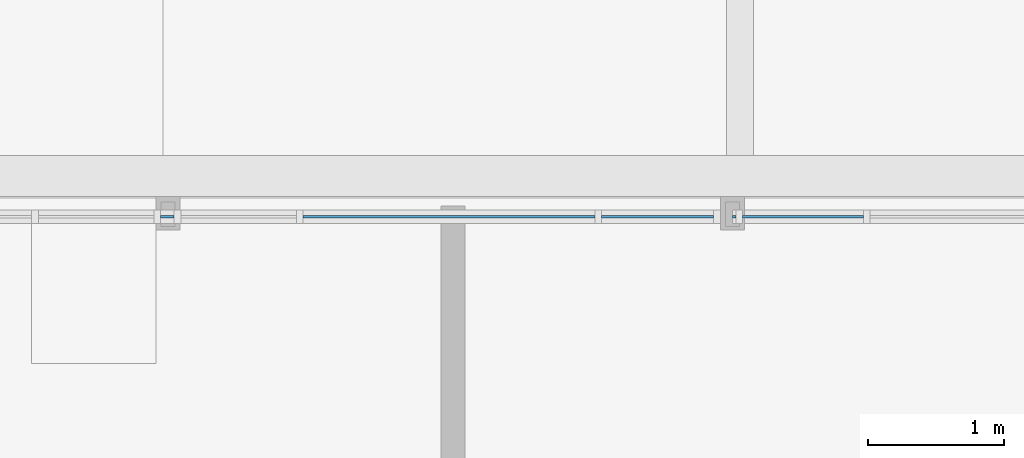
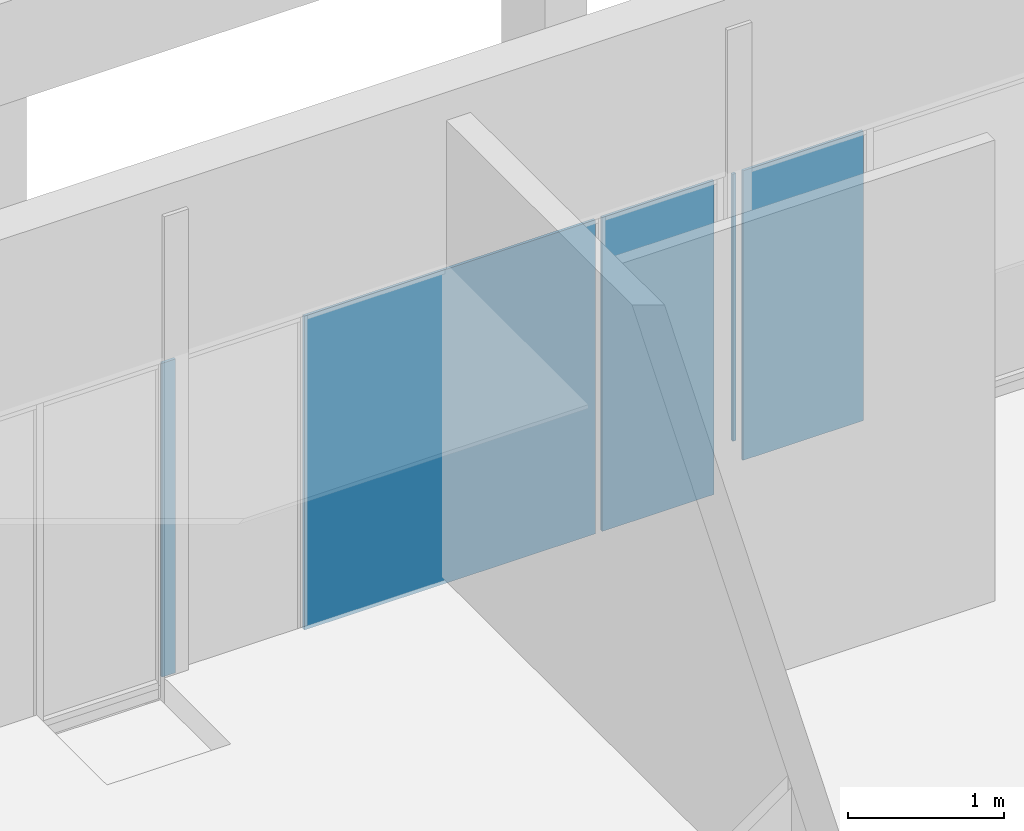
# One storey, part 42 of 117: 5 plates, 2 elements without a shape of their own.
"""IFC4 building model written with IfcOpenShell, lengths in metres."""

from ifc_helpers import new_model, entity, si_unit, converted_unit, derived_unit, direction, frame, origin, place, context, subcontext, project, spatial, indexed_curve, outline, extrude, source, transform, mapped, material, type_object, type_shapes, element, aggregate, save


model = new_model("IFC4")

# Units and contexts
model_context = context("Model", 3, precision=1e-05, world=origin(), true_north=direction((6.123031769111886e-17, 1.0)))
body_context = subcontext(model_context, "Body", "Model", "MODEL_VIEW")
ifc_project = project(units=[si_unit("LENGTHUNIT", "METRE"), si_unit("AREAUNIT", "SQUARE_METRE"), si_unit("VOLUMEUNIT", "CUBIC_METRE"), converted_unit("PLANEANGLEUNIT", "DEGREE", entity("IfcRatioMeasure", 0.017453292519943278), si_unit("PLANEANGLEUNIT", "RADIAN"), dimensions=[0, 0, 0, 0, 0, 0, 0]), si_unit("MASSUNIT", "GRAM", prefix="KILO"), derived_unit("MASSDENSITYUNIT", [(si_unit("MASSUNIT", "GRAM", prefix="KILO"), 1), (si_unit("LENGTHUNIT", "METRE"), -3)]), derived_unit("MOMENTOFINERTIAUNIT", [(si_unit("LENGTHUNIT", "METRE"), 4)]), si_unit("TIMEUNIT", "SECOND"), si_unit("FREQUENCYUNIT", "HERTZ"), si_unit("THERMODYNAMICTEMPERATUREUNIT", "DEGREE_CELSIUS"), derived_unit("THERMALTRANSMITTANCEUNIT", [(si_unit("MASSUNIT", "GRAM", prefix="KILO"), 1), (si_unit("THERMODYNAMICTEMPERATUREUNIT", "KELVIN"), -1), (si_unit("TIMEUNIT", "SECOND"), -3)]), derived_unit("VOLUMETRICFLOWRATEUNIT", [(si_unit("LENGTHUNIT", "METRE"), 3), (si_unit("TIMEUNIT", "SECOND"), -1)]), derived_unit("MASSFLOWRATEUNIT", [(si_unit("MASSUNIT", "GRAM", prefix="KILO"), 1), (si_unit("TIMEUNIT", "SECOND"), -1)]), derived_unit("ROTATIONALFREQUENCYUNIT", [(si_unit("TIMEUNIT", "SECOND"), -1)]), si_unit("ELECTRICCURRENTUNIT", "AMPERE"), si_unit("ELECTRICVOLTAGEUNIT", "VOLT"), si_unit("POWERUNIT", "WATT"), si_unit("FORCEUNIT", "NEWTON", prefix="KILO"), si_unit("ILLUMINANCEUNIT", "LUX"), si_unit("LUMINOUSFLUXUNIT", "LUMEN"), si_unit("LUMINOUSINTENSITYUNIT", "CANDELA"), derived_unit("USERDEFINED", [(si_unit("MASSUNIT", "GRAM", prefix="KILO"), -1), (si_unit("LENGTHUNIT", "METRE"), -2), (si_unit("TIMEUNIT", "SECOND"), 3), (si_unit("LUMINOUSFLUXUNIT", "LUMEN"), 1)]), derived_unit("SOUNDPOWERUNIT", [(si_unit("MASSUNIT", "GRAM", prefix="KILO"), 1), (si_unit("LENGTHUNIT", "METRE"), 2), (si_unit("TIMEUNIT", "SECOND"), -3)]), derived_unit("SOUNDPRESSUREUNIT", [(si_unit("MASSUNIT", "GRAM", prefix="KILO"), 1), (si_unit("LENGTHUNIT", "METRE"), -1), (si_unit("TIMEUNIT", "SECOND"), -2)]), derived_unit("LINEARVELOCITYUNIT", [(si_unit("LENGTHUNIT", "METRE"), 1), (si_unit("TIMEUNIT", "SECOND"), -1)]), si_unit("PRESSUREUNIT", "PASCAL"), derived_unit("USERDEFINED", [(si_unit("LENGTHUNIT", "METRE"), -2), (si_unit("MASSUNIT", "GRAM", prefix="KILO"), 1), (si_unit("TIMEUNIT", "SECOND"), -2)]), derived_unit("LINEARFORCEUNIT", [(si_unit("MASSUNIT", "GRAM", prefix="KILO"), 1), (si_unit("LENGTHUNIT", "METRE"), 1), (si_unit("TIMEUNIT", "SECOND"), -2), (si_unit("LENGTHUNIT", "METRE"), -1)]), derived_unit("PLANARFORCEUNIT", [(si_unit("MASSUNIT", "GRAM", prefix="KILO"), 1), (si_unit("LENGTHUNIT", "METRE"), 1), (si_unit("TIMEUNIT", "SECOND"), -2), (si_unit("LENGTHUNIT", "METRE"), -2)])], contexts=[model_context])

# Site, building, storey
site_placement = place(None, origin())
site = spatial("IfcSite", under=ifc_project, at=site_placement, Name="Superficie", CompositionType="ELEMENT")
building_placement = place(site_placement, origin())
building = spatial("IfcBuilding", under=site, at=building_placement, CompositionType="ELEMENT")
storey_placement = place(building_placement, origin())
storey = spatial("IfcBuildingStorey", under=building, at=storey_placement, Name="Nivel 0", CompositionType="ELEMENT", Elevation=0.0)

# Curtain wall, plates
curtain_wall_type = type_object("IfcCurtainWallType", Name="Muro cortina:Muro cortina - simple", PredefinedType="NOTDEFINED")
curtain_wall_1_placement = place(storey_placement, origin())
curtain_wall_1 = element("IfcCurtainWall", 1, at=curtain_wall_1_placement, inside=storey, type_object=curtain_wall_type, Name="Muro cortina:Muro cortina - simple", ObjectType="Muro cortina:Muro cortina - simple", PredefinedType="NOTDEFINED")
ifc_material = material(Name="Cristal", Category="Vidrio")
plate_type_1 = type_object("IfcPlateType", Name="Panel de sistema:Acristalado", PredefinedType="CURTAIN_PANEL", material=ifc_material)
shared_shape_1 = source(origin(), body_context, "Body", "SweptSolid", [
    extrude(outline(indexed_curve([(-0.8119020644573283, -0.4450000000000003), (-0.6369020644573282, -0.4450000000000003), (1.4488041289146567, -0.4450000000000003), (1.4488041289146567, 0.44500000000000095), (-0.6369020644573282, 0.4449999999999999), (-0.8119020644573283, 0.4449999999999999), (-0.8119020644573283, -0.4450000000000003)], self_intersect=False)), frame((0.0, -0.01, 0.8119020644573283), z_axis=(0.0, 1.0, 0.0), x_axis=(0.0, 0.0, 1.0)), (0.0, 0.0, 1.0), 0.02),
])
type_shapes(plate_type_1, [shared_shape_1])
plate_1_placement = place(curtain_wall_1_placement, frame((9.411552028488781, 12.65454840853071, 0.129293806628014), z_axis=(0.0, 0.0, 1.0), x_axis=(-1.0, 0.0, 0.0)))
plate_1 = element("IfcPlate", 2, at=plate_1_placement, type_object=plate_type_1, material=ifc_material, Name="Panel de sistema:Acristalado", ObjectType="Panel de sistema:Acristalado", PredefinedType="CURTAIN_PANEL", context=body_context, shape_type="MappedRepresentation", body=[
    mapped(shared_shape_1, transform((0.0, 0.0, 0.0), scale=1.0)),
])
plate_type_2 = type_object("IfcPlateType", Name="Panel de sistema:Acristalado", PredefinedType="CURTAIN_PANEL", material=ifc_material)
shared_shape_2 = source(origin(), body_context, "Body", "SweptSolid", [
    extrude(outline(indexed_curve([(-0.01, -0.012499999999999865), (0.01, -0.012499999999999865), (0.01, 0.012499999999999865), (-0.01, 0.012499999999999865), (-0.01, -0.012499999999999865)], self_intersect=False)), frame((0.0, 0.0, 0.0), z_axis=(0.0, 0.0, 1.0), x_axis=(0.0, 1.0, 0.0)), (0.0, 0.0, 1.0), 2.085706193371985),
])
type_shapes(plate_type_2, [shared_shape_2])
plate_2_placement = place(curtain_wall_1_placement, frame((8.904052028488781, 12.654548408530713, 0.3042938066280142), z_axis=(0.0, 0.0, 1.0), x_axis=(-1.0, 0.0, 0.0)))
plate_2 = element("IfcPlate", 3, at=plate_2_placement, type_object=plate_type_2, material=ifc_material, Name="Panel de sistema:Acristalado", ObjectType="Panel de sistema:Acristalado", PredefinedType="CURTAIN_PANEL", context=body_context, shape_type="MappedRepresentation", body=[
    mapped(shared_shape_2, transform((0.0, 0.0, 0.0), scale=1.0)),
])
aggregate(curtain_wall_1, [plate_1, plate_2])

curtain_wall_2_placement = place(storey_placement, origin())
curtain_wall_2 = element("IfcCurtainWall", 4, at=curtain_wall_2_placement, inside=storey, type_object=curtain_wall_type, Name="Muro cortina:Muro cortina - simple", ObjectType="Muro cortina:Muro cortina - simple", PredefinedType="NOTDEFINED")
plate_type_3 = type_object("IfcPlateType", Name="Panel de sistema:Acristalado", PredefinedType="CURTAIN_PANEL", material=ifc_material)
shared_shape_3 = source(origin(), body_context, "Body", "SweptSolid", [
    extrude(outline(indexed_curve([(-0.01, -0.4124999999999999), (0.01, -0.4124999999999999), (0.01, 0.4124999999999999), (-0.01, 0.4124999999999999), (-0.01, -0.4124999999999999)], self_intersect=False)), frame((0.0, 0.0, 0.0), z_axis=(0.0, 0.0, 1.0), x_axis=(0.0, 1.0, 0.0)), (0.0, 0.0, 1.0), 2.45147709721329),
])
type_shapes(plate_type_3, [shared_shape_3])
plate_3_placement = place(curtain_wall_2_placement, frame((8.339052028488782, 12.654548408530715, -0.06147709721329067), z_axis=(0.0, 0.0, 1.0), x_axis=(-1.0, 0.0, 0.0)))
plate_3 = element("IfcPlate", 5, at=plate_3_placement, type_object=plate_type_3, material=ifc_material, Name="Panel de sistema:Acristalado", ObjectType="Panel de sistema:Acristalado", PredefinedType="CURTAIN_PANEL", context=body_context, shape_type="MappedRepresentation", body=[
    mapped(shared_shape_3, transform((0.0, 0.0, 0.0), scale=1.0)),
])
plate_type_4 = type_object("IfcPlateType", Name="Panel de sistema:Acristalado", PredefinedType="CURTAIN_PANEL", material=ifc_material)
shared_shape_4 = source(origin(), body_context, "Body", "SweptSolid", [
    extrude(outline(indexed_curve([(-0.01, -1.0750000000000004), (0.01, -1.0750000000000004), (0.01, 1.0750000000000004), (-0.01, 1.0750000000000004), (-0.01, -1.0750000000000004)], self_intersect=False)), frame((0.0, 0.0, 0.0), z_axis=(0.0, 0.0, 1.0), x_axis=(0.0, 1.0, 0.0)), (0.0, 0.0, 1.0), 2.45147709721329),
])
type_shapes(plate_type_4, [shared_shape_4])
plate_4_placement = place(curtain_wall_2_placement, frame((6.801552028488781, 12.654548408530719, -0.06147709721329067), z_axis=(0.0, 0.0, 1.0), x_axis=(-1.0, 0.0, 0.0)))
plate_4 = element("IfcPlate", 6, at=plate_4_placement, type_object=plate_type_4, material=ifc_material, Name="Panel de sistema:Acristalado", ObjectType="Panel de sistema:Acristalado", PredefinedType="CURTAIN_PANEL", context=body_context, shape_type="MappedRepresentation", body=[
    mapped(shared_shape_4, transform((0.0, 0.0, 0.0), scale=1.0)),
])
plate_type_5 = type_object("IfcPlateType", Name="Panel de sistema:Acristalado", PredefinedType="CURTAIN_PANEL", material=ifc_material)
shared_shape_5 = source(origin(), body_context, "Body", "SweptSolid", [
    extrude(outline(indexed_curve([(-0.01, -0.05), (0.01, -0.05), (0.01, 0.05), (-0.01, 0.05), (-0.01, -0.05)], self_intersect=False)), frame((0.0, 0.0, 0.0), z_axis=(0.0, 0.0, 1.0), x_axis=(0.0, 1.0, 0.0)), (0.0, 0.0, 1.0), 2.45147709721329),
])
type_shapes(plate_type_5, [shared_shape_5])
plate_5_placement = place(curtain_wall_2_placement, frame((4.726552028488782, 12.654548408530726, -0.06147709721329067), z_axis=(0.0, 0.0, 1.0), x_axis=(-1.0, 0.0, 0.0)))
plate_5 = element("IfcPlate", 7, at=plate_5_placement, type_object=plate_type_5, material=ifc_material, Name="Panel de sistema:Acristalado", ObjectType="Panel de sistema:Acristalado", PredefinedType="CURTAIN_PANEL", context=body_context, shape_type="MappedRepresentation", body=[
    mapped(shared_shape_5, transform((0.0, 0.0, 0.0), scale=1.0)),
])
aggregate(curtain_wall_2, [plate_3, plate_4, plate_5])

save(model, "model.ifc")
